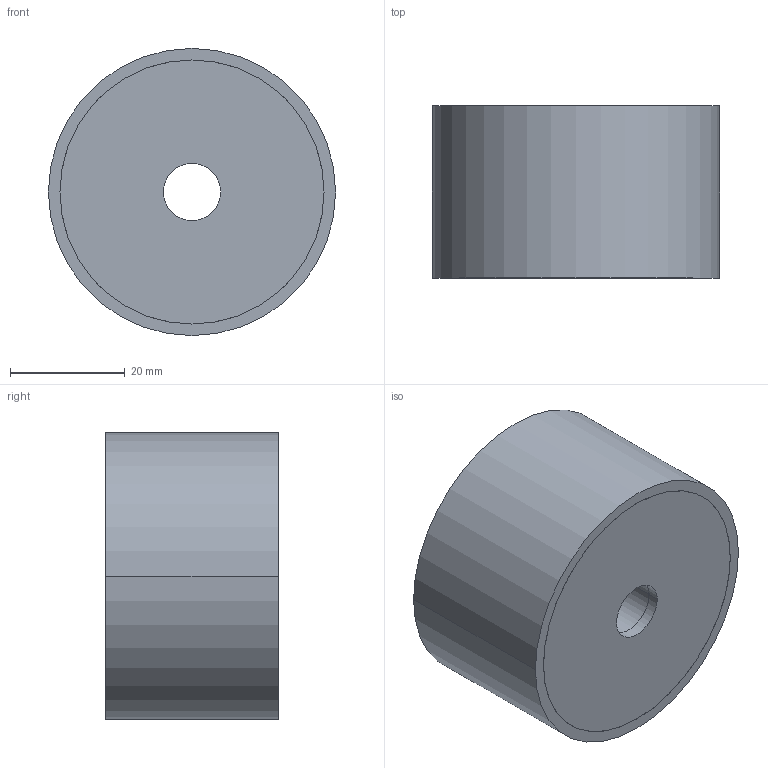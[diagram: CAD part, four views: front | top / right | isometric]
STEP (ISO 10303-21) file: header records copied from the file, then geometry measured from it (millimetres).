
FILE_DESCRIPTION (( 'STEP AP214' ), '1' );
FILE_NAME ('351-50-30-10-DD-40.step', '2025-07-23T10:14:33', ( '' ), ( '' ), 'SwSTEP 2.0', 'SolidWorks 2022', '' );
FILE_SCHEMA (( 'AUTOMOTIVE_DESIGN' ));
Length unit declared in the file: millimetre
Products named in the file (1): 351-50-30-10-DD-40
Bounding box: 50 x 30 x 50 mm (x, y, z)
Volume: 56548.6 mm3; surface area: 9431.8 mm2
Topology: 1 solids, 1 shells, 30 faces, 60 edges, 40 vertices
Faces by surface type: cylinder 20, plane 10
Entity records: 919 total; most frequent: DIRECTION 162, CARTESIAN_POINT 131, ORIENTED_EDGE 120, AXIS2_PLACEMENT_3D 71, EDGE_CURVE 60, VERTEX_POINT 40, CIRCLE 40, EDGE_LOOP 40
